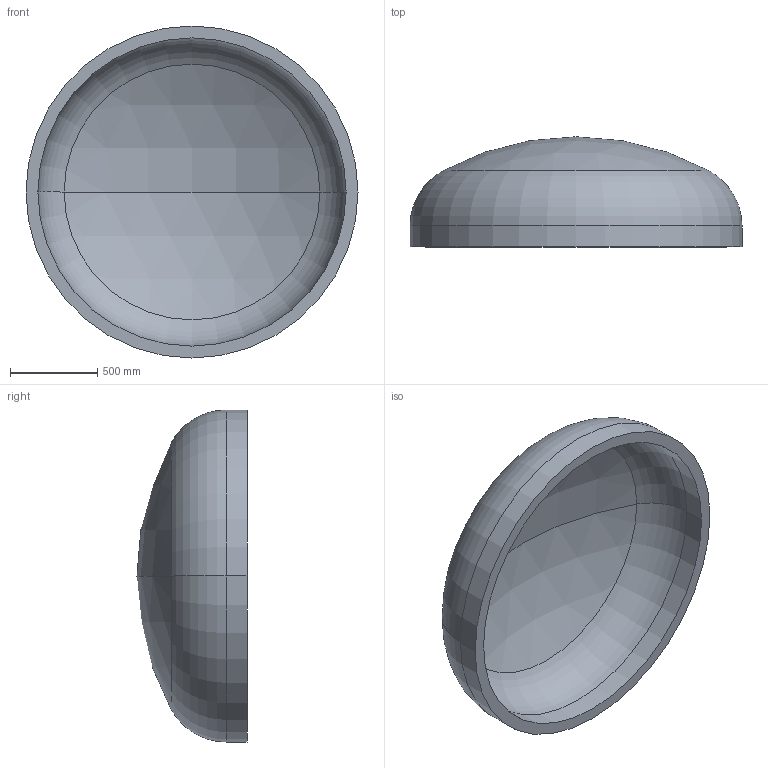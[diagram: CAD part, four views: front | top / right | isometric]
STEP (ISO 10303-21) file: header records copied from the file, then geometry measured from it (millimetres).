
FILE_DESCRIPTION (( 'STEP AP203' ), '1' );
FILE_NAME ('DIN 28013 Korbbogenform_-_Boden DIN 28013 - 1900 x 120 - I - s=68.step', '2016-07-01T13:17:12', ( '' ), ( '' ), 'SwSTEP 2.0', 'SolidWorks 2013', '' );
FILE_SCHEMA (( 'CONFIG_CONTROL_DESIGN' ));
Length unit declared in the file: millimetre
Products named in the file (1): DIN 28013 Korbbogenform_-_Boden DIN 28013 - 1900 x 120 - I - s=68
Bounding box: 1900 x 629.84 x 1900 mm (x, y, z)
Volume: 301390089.9 mm3; surface area: 9265463.4 mm2
Topology: 1 solids, 1 shells, 13 faces, 24 edges, 14 vertices
Faces by surface type: torus 4, cylinder 4, sphere 4, plane 1
Entity records: 407 total; most frequent: DIRECTION 72, CARTESIAN_POINT 52, ORIENTED_EDGE 48, AXIS2_PLACEMENT_3D 34, EDGE_CURVE 24, CIRCLE 20, EDGE_LOOP 14, VERTEX_POINT 14
